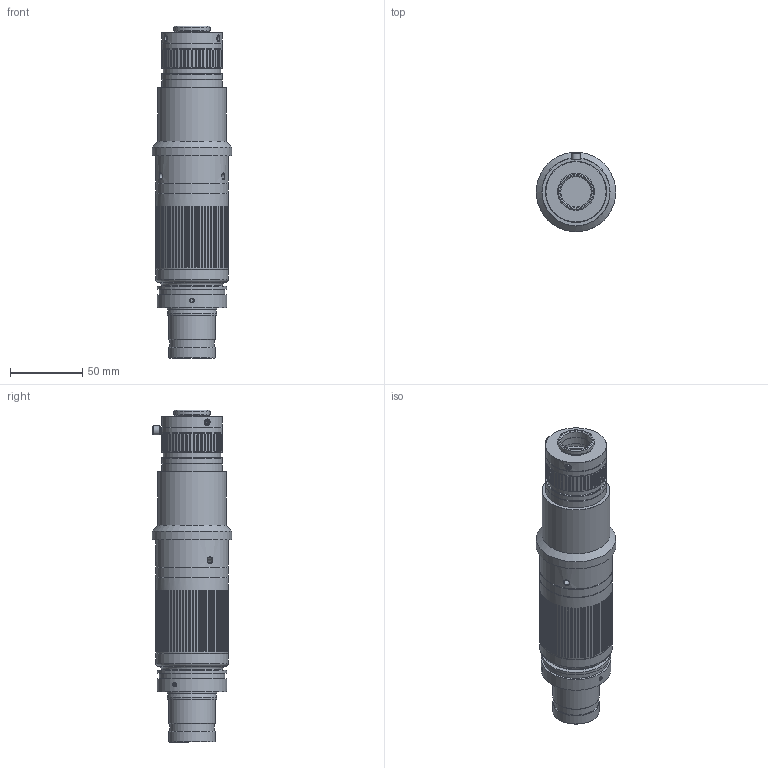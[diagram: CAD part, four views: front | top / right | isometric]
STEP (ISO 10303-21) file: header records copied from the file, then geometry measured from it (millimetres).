
FILE_DESCRIPTION(('STEP AP214'),'1');
FILE_NAME('SDS-KFZ(2X).stp','2024-10-10T01:24:30',(' '),(' '),'Spatial InterOp 3D',' ',' ');
FILE_SCHEMA(('AUTOMOTIVE_DESIGN { 1 0 10303 214 1 1 1 1 }'));
Length unit declared in the file: metre
Products named in the file (2): SDS-KFZ(2X); Component1
Assembly tree (1 placements, depth 2):
  SDS-KFZ(2X)
    Component1
Bounding box: 55 x 55 x 229 mm (x, y, z)
Volume: 338437.7 mm3; surface area: 45561.8 mm2
Topology: 1 solids, 1 shells, 1256 faces, 2784 edges, 1688 vertices
Faces by surface type: cylinder 514, sphere 476, plane 216, cone 42, bspline 6, torus 2
Full cylindrical faces by diameter (mm): 3 x4, 4 x6, 6.3 x1, 21 x1, 24.2 x1, 25 x2, 25.4 x1, 30 x1, 31 x1, 32 x2, 34 x2, 39.8 x1, 42 x6, 45 x1, 47 x1, 48 x2, 50 x4, 55 x1
Entity records: 62014 total; most frequent: CARTESIAN_POINT 12164, DIRECTION 5458, ORIENTED_EDGE 5326, STYLED_ITEM 3920, PRESENTATION_STYLE_ASSIGNMENT 3920, COLOUR_RGB 3920, EDGE_CURVE 2663, CURVE_STYLE 2663
